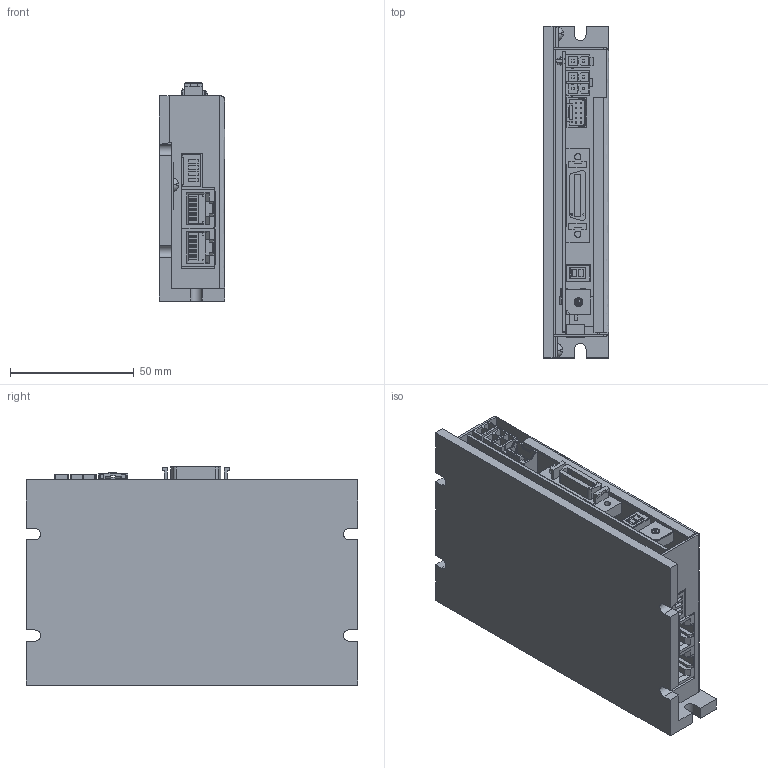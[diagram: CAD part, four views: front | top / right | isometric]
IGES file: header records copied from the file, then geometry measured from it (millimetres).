
Start section: 3D InterOp IGES (Version 21 0 2), Spatial Corp. Copyright (c) 1999-2007.
Global section: file name: Ezi_SERVO_PLUS_R.igs; native system: Spatial Corp.; preprocessor: 3D InterOp GENERIC/IGES 3.0; author: Noname; organization: Noname; date: 20110315.114241; units: millimetre
Bounding box: 26.5 x 134 x 88.16 mm (x, y, z)
Surface area: 85353.7 mm2 (no closed solid volume)
Topology: 0 solids, 0 shells, 1558 faces, 8512 edges, 8493 vertices
Faces by surface type: extrusion 1330, revolution 228
